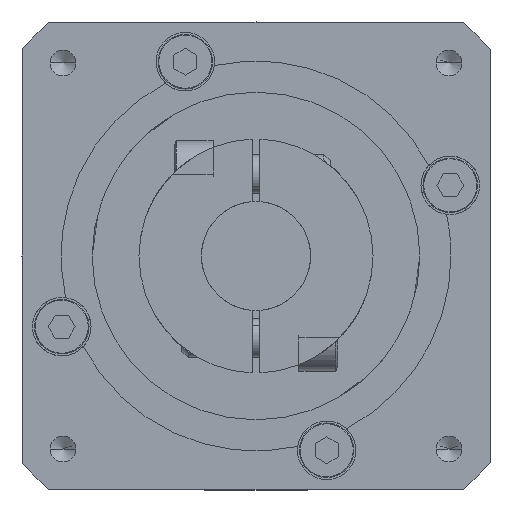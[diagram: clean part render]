
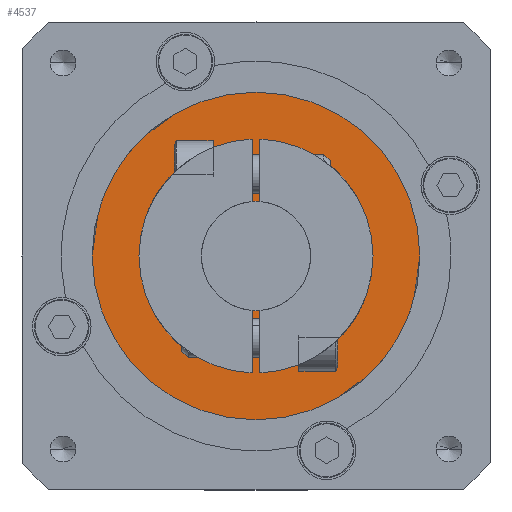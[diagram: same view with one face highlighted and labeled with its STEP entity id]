
A CAD part, front view. The second image highlights one B-rep face of the part: STEP entity #4537.
In plain terms, the highlighted planar face has unit normal (0, -1, 0).
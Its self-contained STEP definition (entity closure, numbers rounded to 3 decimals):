
#274 = CARTESIAN_POINT ( 'NONE',  ( -0.5, 11., 18.176 ) ) ;
#290 = CARTESIAN_POINT ( 'NONE',  ( -0.5, 11., 11.489 ) ) ;
#318 = DIRECTION ( 'NONE',  ( 0., 0., -1. ) ) ;
#441 = EDGE_CURVE ( 'NONE', #9122, #3534, #5424, .T. ) ;
#492 = AXIS2_PLACEMENT_3D ( 'NONE', #2973, #8411, #3756 ) ;
#566 = VERTEX_POINT ( 'NONE', #290 ) ;
#772 = CARTESIAN_POINT ( 'NONE',  ( 0.5, 11., -11.489 ) ) ;
#900 = AXIS2_PLACEMENT_3D ( 'NONE', #9606, #5004, #318 ) ;
#977 = ORIENTED_EDGE ( 'NONE', *, *, #4901, .T. ) ;
#1014 = CARTESIAN_POINT ( 'NONE',  ( 0.5, 11., 18.176 ) ) ;
#1065 = CARTESIAN_POINT ( 'NONE',  ( 0., 11., 0. ) ) ;
#1097 = EDGE_CURVE ( 'NONE', #7309, #9774, #9577, .T. ) ;
#1098 = ORIENTED_EDGE ( 'NONE', *, *, #9801, .T. ) ;
#1114 = CIRCLE ( 'NONE', #8904, 23. ) ;
#1396 = DIRECTION ( 'NONE',  ( 0., 1., 0. ) ) ;
#1500 = CARTESIAN_POINT ( 'NONE',  ( 0.5, 11., 18.176 ) ) ;
#1512 = DIRECTION ( 'NONE',  ( 0., 0., -1. ) ) ;
#1522 = DIRECTION ( 'NONE',  ( 0., 1., 0. ) ) ;
#1529 = CARTESIAN_POINT ( 'NONE',  ( -0.5, 11., -11.489 ) ) ;
#1549 = CARTESIAN_POINT ( 'NONE',  ( 0., 11., 0. ) ) ;
#1563 = EDGE_LOOP ( 'NONE', ( #6349, #8825 ) ) ;
#1566 = CARTESIAN_POINT ( 'NONE',  ( 0., 11., 0. ) ) ;
#1579 = AXIS2_PLACEMENT_3D ( 'NONE', #1566, #7050, #2341 ) ;
#1803 = DIRECTION ( 'NONE',  ( 0., 0., 1. ) ) ;
#1861 = DIRECTION ( 'NONE',  ( 0., 0., 1. ) ) ;
#2091 = ORIENTED_EDGE ( 'NONE', *, *, #441, .T. ) ;
#2125 = CARTESIAN_POINT ( 'NONE',  ( 0., 11., 7. ) ) ;
#2287 = DIRECTION ( 'NONE',  ( 0., 0., -1. ) ) ;
#2341 = DIRECTION ( 'NONE',  ( 0., 0., 1. ) ) ;
#2511 = VERTEX_POINT ( 'NONE', #4796 ) ;
#2578 = ORIENTED_EDGE ( 'NONE', *, *, #1097, .T. ) ;
#2584 = ORIENTED_EDGE ( 'NONE', *, *, #10061, .T. ) ;
#2639 = CARTESIAN_POINT ( 'NONE',  ( -0.5, 11., 18.176 ) ) ;
#2715 = AXIS2_PLACEMENT_3D ( 'NONE', #9903, #1396, #6894 ) ;
#2775 = EDGE_LOOP ( 'NONE', ( #2578, #977, #9474, #5895, #6410, #6634, #1098, #5775, #2091, #2584 ) ) ;
#2786 = DIRECTION ( 'NONE',  ( 0., 1., 0. ) ) ;
#2787 = DIRECTION ( 'NONE',  ( 0., 1., 0. ) ) ;
#2877 = EDGE_CURVE ( 'NONE', #8681, #2975, #8867, .T. ) ;
#2926 = CARTESIAN_POINT ( 'NONE',  ( 0., 11., -23. ) ) ;
#2973 = CARTESIAN_POINT ( 'NONE',  ( 0., 11., 0. ) ) ;
#2975 = VERTEX_POINT ( 'NONE', #4261 ) ;
#3184 = CIRCLE ( 'NONE', #1579, 11.5 ) ;
#3391 = CARTESIAN_POINT ( 'NONE',  ( 0., 11., 0. ) ) ;
#3499 = CIRCLE ( 'NONE', #8761, 11.5 ) ;
#3534 = VERTEX_POINT ( 'NONE', #4902 ) ;
#3553 = VECTOR ( 'NONE', #6562, 1000. ) ;
#3563 = CIRCLE ( 'NONE', #900, 7. ) ;
#3632 = VECTOR ( 'NONE', #6212, 1000. ) ;
#3756 = DIRECTION ( 'NONE',  ( 0., 0., -1. ) ) ;
#3974 = AXIS2_PLACEMENT_3D ( 'NONE', #7479, #2786, #8230 ) ;
#4121 = FACE_OUTER_BOUND ( 'NONE', #1563, .T. ) ;
#4177 = DIRECTION ( 'NONE',  ( 0., 0., -1. ) ) ;
#4216 = VERTEX_POINT ( 'NONE', #4960 ) ;
#4261 = CARTESIAN_POINT ( 'NONE',  ( 0.5, 11., 11.489 ) ) ;
#4478 = PLANE ( 'NONE',  #2715 ) ;
#4537 = ADVANCED_FACE ( 'NONE', ( #6726, #4121 ), #4478, .F. ) ;
#4645 = EDGE_CURVE ( 'NONE', #8922, #9122, #9788, .T. ) ;
#4796 = CARTESIAN_POINT ( 'NONE',  ( 0., 11., 23. ) ) ;
#4901 = EDGE_CURVE ( 'NONE', #9774, #566, #3499, .T. ) ;
#4902 = CARTESIAN_POINT ( 'NONE',  ( 0., 11., -7. ) ) ;
#4960 = CARTESIAN_POINT ( 'NONE',  ( -0.5, 11., 6.982 ) ) ;
#5004 = DIRECTION ( 'NONE',  ( 0., 1., 0. ) ) ;
#5008 = VECTOR ( 'NONE', #1803, 1000. ) ;
#5404 = AXIS2_PLACEMENT_3D ( 'NONE', #1549, #1522, #1512 ) ;
#5424 = CIRCLE ( 'NONE', #5404, 7. ) ;
#5656 = LINE ( 'NONE', #274, #3553 ) ;
#5689 = CARTESIAN_POINT ( 'NONE',  ( 0.5, 11., -6.982 ) ) ;
#5775 = ORIENTED_EDGE ( 'NONE', *, *, #4645, .T. ) ;
#5895 = ORIENTED_EDGE ( 'NONE', *, *, #7631, .T. ) ;
#6052 = EDGE_CURVE ( 'NONE', #8802, #8681, #6695, .T. ) ;
#6212 = DIRECTION ( 'NONE',  ( 0., 0., 1. ) ) ;
#6349 = ORIENTED_EDGE ( 'NONE', *, *, #9322, .F. ) ;
#6387 = EDGE_CURVE ( 'NONE', #7240, #2511, #8552, .T. ) ;
#6410 = ORIENTED_EDGE ( 'NONE', *, *, #6052, .T. ) ;
#6562 = DIRECTION ( 'NONE',  ( 0., 0., -1. ) ) ;
#6575 = DIRECTION ( 'NONE',  ( 0., 1., 0. ) ) ;
#6634 = ORIENTED_EDGE ( 'NONE', *, *, #2877, .T. ) ;
#6694 = CARTESIAN_POINT ( 'NONE',  ( 0.5, 11., 6.982 ) ) ;
#6695 = CIRCLE ( 'NONE', #492, 7. ) ;
#6726 = FACE_BOUND ( 'NONE', #2775, .T. ) ;
#6881 = VECTOR ( 'NONE', #2287, 1000. ) ;
#6894 = DIRECTION ( 'NONE',  ( 0., 0., 1. ) ) ;
#7050 = DIRECTION ( 'NONE',  ( 0., 1., 0. ) ) ;
#7240 = VERTEX_POINT ( 'NONE', #2926 ) ;
#7309 = VERTEX_POINT ( 'NONE', #7692 ) ;
#7479 = CARTESIAN_POINT ( 'NONE',  ( 0., 11., 0. ) ) ;
#7481 = CARTESIAN_POINT ( 'NONE',  ( 0., 11., 0. ) ) ;
#7631 = EDGE_CURVE ( 'NONE', #4216, #8802, #3563, .T. ) ;
#7692 = CARTESIAN_POINT ( 'NONE',  ( -0.5, 11., -6.982 ) ) ;
#8097 = EDGE_CURVE ( 'NONE', #566, #4216, #5656, .T. ) ;
#8192 = CIRCLE ( 'NONE', #8848, 7. ) ;
#8230 = DIRECTION ( 'NONE',  ( 0., 0., 1. ) ) ;
#8231 = DIRECTION ( 'NONE',  ( 0., 0., 1. ) ) ;
#8411 = DIRECTION ( 'NONE',  ( 0., 1., 0. ) ) ;
#8552 = CIRCLE ( 'NONE', #3974, 23. ) ;
#8681 = VERTEX_POINT ( 'NONE', #6694 ) ;
#8761 = AXIS2_PLACEMENT_3D ( 'NONE', #1065, #6575, #1861 ) ;
#8802 = VERTEX_POINT ( 'NONE', #2125 ) ;
#8813 = DIRECTION ( 'NONE',  ( 0., 1., 0. ) ) ;
#8825 = ORIENTED_EDGE ( 'NONE', *, *, #6387, .F. ) ;
#8848 = AXIS2_PLACEMENT_3D ( 'NONE', #3391, #8813, #4177 ) ;
#8867 = LINE ( 'NONE', #1014, #5008 ) ;
#8904 = AXIS2_PLACEMENT_3D ( 'NONE', #7481, #2787, #8231 ) ;
#8922 = VERTEX_POINT ( 'NONE', #772 ) ;
#9122 = VERTEX_POINT ( 'NONE', #5689 ) ;
#9322 = EDGE_CURVE ( 'NONE', #2511, #7240, #1114, .T. ) ;
#9474 = ORIENTED_EDGE ( 'NONE', *, *, #8097, .T. ) ;
#9577 = LINE ( 'NONE', #2639, #6881 ) ;
#9606 = CARTESIAN_POINT ( 'NONE',  ( 0., 11., 0. ) ) ;
#9774 = VERTEX_POINT ( 'NONE', #1529 ) ;
#9788 = LINE ( 'NONE', #1500, #3632 ) ;
#9801 = EDGE_CURVE ( 'NONE', #2975, #8922, #3184, .T. ) ;
#9903 = CARTESIAN_POINT ( 'NONE',  ( 0., 11., -23. ) ) ;
#10061 = EDGE_CURVE ( 'NONE', #3534, #7309, #8192, .T. ) ;
